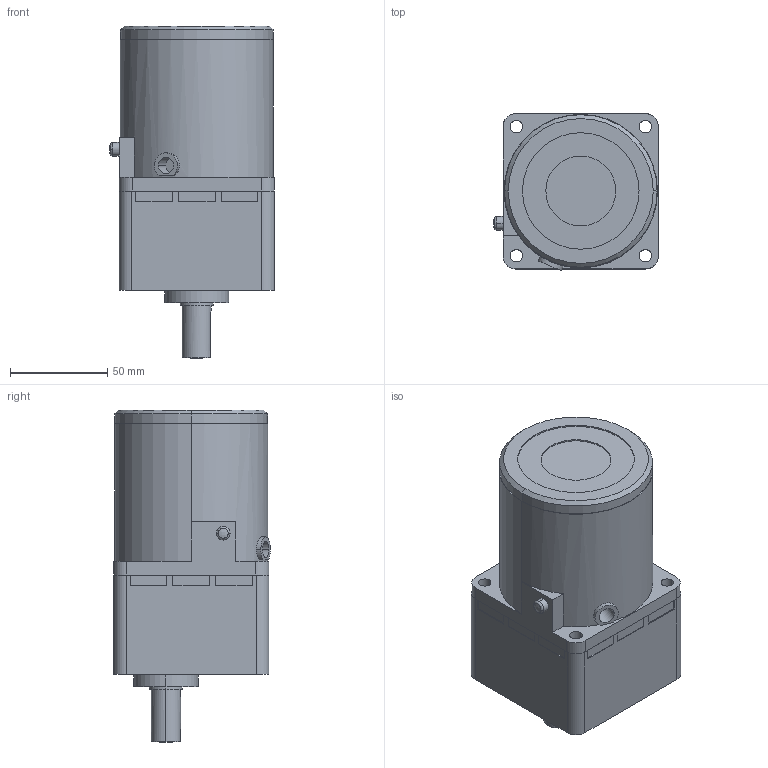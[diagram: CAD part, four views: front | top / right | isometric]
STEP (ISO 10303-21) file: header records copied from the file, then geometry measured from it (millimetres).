
FILE_DESCRIPTION (( 'STEP AP203' ), '1' );
FILE_NAME ('A1231C.STEP', '2015-04-02T07:41:28', ( 'om' ), ( 'Hewlett-Packard Company' ), 'SwSTEP 2.0', 'SolidWorks 2014', '' );
FILE_SCHEMA (( 'CONFIG_CONTROL_DESIGN' ));
Length unit declared in the file: millimetre
Products named in the file (1): A1231C
Bounding box: 84.92 x 80.81 x 171 mm (x, y, z)
Volume: 744426.7 mm3; surface area: 72172.2 mm2
Topology: 2 solids, 3 shells, 192 faces, 504 edges, 332 vertices
Faces by surface type: plane 92, cylinder 89, cone 8, bspline 3
Entity records: 6176 total; most frequent: CARTESIAN_POINT 1170, DIRECTION 1065, ORIENTED_EDGE 1004, EDGE_CURVE 502, AXIS2_PLACEMENT_3D 378, VERTEX_POINT 332, LINE 309, VECTOR 309
